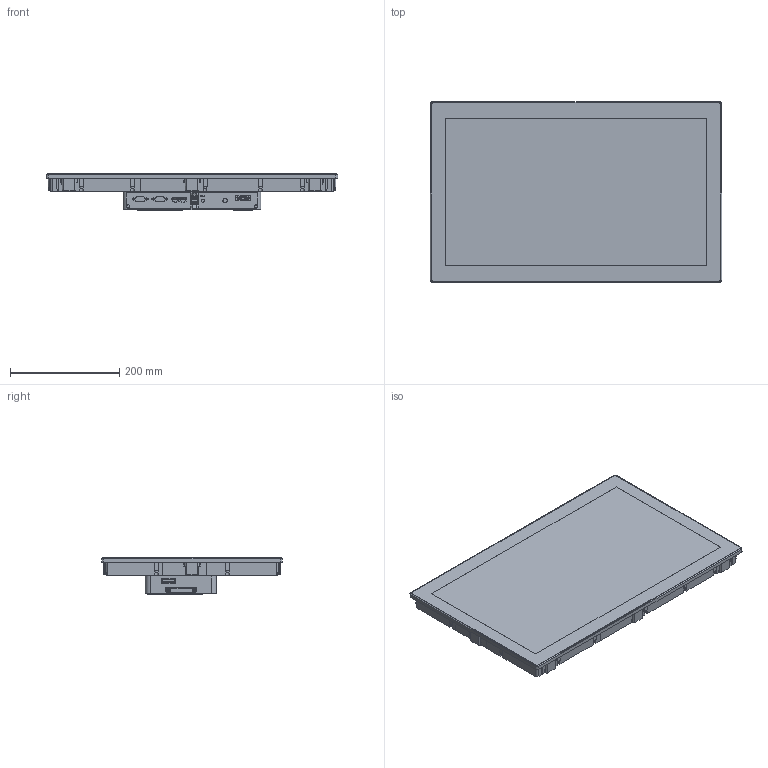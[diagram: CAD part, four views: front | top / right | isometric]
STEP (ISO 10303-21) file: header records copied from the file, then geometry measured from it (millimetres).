
FILE_DESCRIPTION (( 'STEP AP203' ), '1' );
FILE_NAME ('PFXGP6940WCAI_3D_simpl_2.STEP', '2024-05-29T09:54:41', ( '' ), ( '' ), 'SwSTEP 2.0', 'SolidWorks 2017', '' );
FILE_SCHEMA (( 'CONFIG_CONTROL_DESIGN' ));
Products named in the file (1): PFXGP6940WCAI_3D_simpl_2
Bounding box: 532.6 x 330.6 x 66.28 mm (x, y, z)
Volume: 6357769.4 mm3; surface area: 485635.1 mm2
Topology: 11 solids, 21 shells, 2835 faces, 8161 edges, 5438 vertices
Faces by surface type: plane 2101, cylinder 529, bspline 127, cone 57, torus 14, sphere 7
Full cylindrical faces by diameter (mm): 2.5 x2, 2.8 x1, 2.845 x4, 3.5 x8, 4 x8, 4.1 x16, 5.6 x31, 8 x9, 8.454 x6
Entity records: 112945 total; most frequent: CARTESIAN_POINT 42681, ORIENTED_EDGE 16010, DIRECTION 12010, EDGE_CURVE 8005, LINE 5830, VECTOR 5830, VERTEX_POINT 5407, EDGE_LOOP 3186
